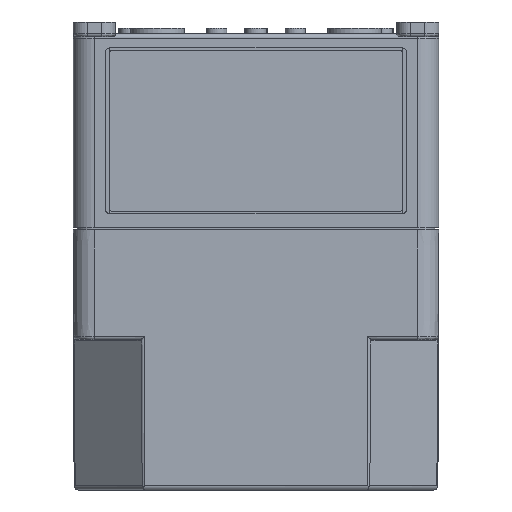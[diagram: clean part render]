
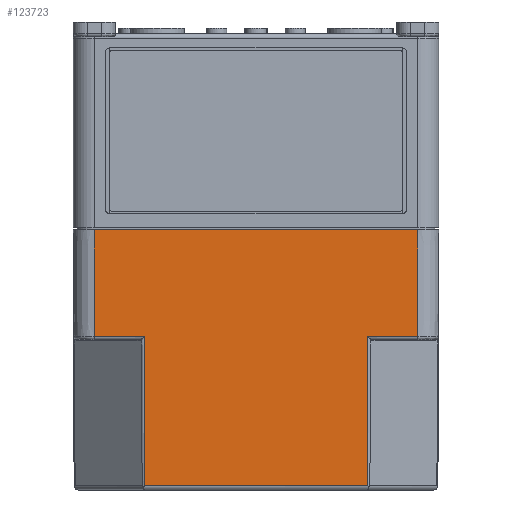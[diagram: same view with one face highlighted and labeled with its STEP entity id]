
A CAD part, front view. The second image highlights one B-rep face of the part: STEP entity #123723.
In plain terms, the highlighted planar face has unit normal (0, -1, -0.004).
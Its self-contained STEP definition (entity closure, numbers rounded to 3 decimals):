
#214 = EDGE_CURVE ( 'NONE', #134812, #115852, #35883, .T. ) ;
#1558 = VECTOR ( 'NONE', #43637, 1000. ) ;
#6525 = EDGE_LOOP ( 'NONE', ( #106716, #36569, #9038, #45359, #113053, #16977, #89786, #100131 ) ) ;
#7467 = DIRECTION ( 'NONE',  ( 0., -0.003, 1. ) ) ;
#8660 = CARTESIAN_POINT ( 'NONE',  ( 57.5, -90., 0. ) ) ;
#9038 = ORIENTED_EDGE ( 'NONE', *, *, #214, .F. ) ;
#10070 = CARTESIAN_POINT ( 'NONE',  ( 30., -89.867, -38.003 ) ) ;
#10581 = PLANE ( 'NONE',  #68981 ) ;
#12914 = EDGE_CURVE ( 'NONE', #101458, #72543, #26311, .T. ) ;
#15495 = LINE ( 'NONE', #69424, #69698 ) ;
#16465 = LINE ( 'NONE', #57149, #91505 ) ;
#16977 = ORIENTED_EDGE ( 'NONE', *, *, #107536, .T. ) ;
#19551 = EDGE_CURVE ( 'NONE', #81115, #106004, #16465, .T. ) ;
#20744 = CARTESIAN_POINT ( 'NONE',  ( 39.677, -90., 0. ) ) ;
#20867 = VECTOR ( 'NONE', #22068, 1000. ) ;
#21081 = FACE_OUTER_BOUND ( 'NONE', #6525, .T. ) ;
#21946 = DIRECTION ( 'NONE',  ( 1., 0., 0. ) ) ;
#21975 = CARTESIAN_POINT ( 'NONE',  ( 100., -89.682, -91.005 ) ) ;
#22068 = DIRECTION ( 'NONE',  ( -1., 0., 0. ) ) ;
#26311 = LINE ( 'NONE', #78149, #56805 ) ;
#27075 = CARTESIAN_POINT ( 'NONE',  ( 39.677, -89.682, -91.005 ) ) ;
#35883 = LINE ( 'NONE', #21975, #1558 ) ;
#36569 = ORIENTED_EDGE ( 'NONE', *, *, #60105, .T. ) ;
#36721 = CARTESIAN_POINT ( 'NONE',  ( 39.677, -89.867, -38.003 ) ) ;
#37170 = DIRECTION ( 'NONE',  ( 0., -0.003, 1. ) ) ;
#43637 = DIRECTION ( 'NONE',  ( -1., 0., 0. ) ) ;
#45359 = ORIENTED_EDGE ( 'NONE', *, *, #111520, .T. ) ;
#53082 = CARTESIAN_POINT ( 'NONE',  ( -39.677, -89.682, -91.005 ) ) ;
#53251 = CARTESIAN_POINT ( 'NONE',  ( 57.5, -89.867, -38.003 ) ) ;
#56805 = VECTOR ( 'NONE', #120727, 1000. ) ;
#57149 = CARTESIAN_POINT ( 'NONE',  ( -57.5, -90., 0. ) ) ;
#60105 = EDGE_CURVE ( 'NONE', #61565, #115852, #15495, .T. ) ;
#61565 = VERTEX_POINT ( 'NONE', #67738 ) ;
#67738 = CARTESIAN_POINT ( 'NONE',  ( -39.677, -89.867, -38.003 ) ) ;
#68653 = CARTESIAN_POINT ( 'NONE',  ( 57.5, -90., 0. ) ) ;
#68981 = AXIS2_PLACEMENT_3D ( 'NONE', #99314, #107739, #120240 ) ;
#69424 = CARTESIAN_POINT ( 'NONE',  ( -39.677, -90., 0. ) ) ;
#69698 = VECTOR ( 'NONE', #70123, 1000. ) ;
#70123 = DIRECTION ( 'NONE',  ( 0., 0.003, -1. ) ) ;
#72543 = VERTEX_POINT ( 'NONE', #53251 ) ;
#77136 = VECTOR ( 'NONE', #7467, 1000. ) ;
#78149 = CARTESIAN_POINT ( 'NONE',  ( 30., -89.867, -38.003 ) ) ;
#81115 = VERTEX_POINT ( 'NONE', #135576 ) ;
#85075 = LINE ( 'NONE', #127572, #20867 ) ;
#89786 = ORIENTED_EDGE ( 'NONE', *, *, #119849, .T. ) ;
#91505 = VECTOR ( 'NONE', #134566, 1000. ) ;
#99314 = CARTESIAN_POINT ( 'NONE',  ( 30., -90., 0. ) ) ;
#100131 = ORIENTED_EDGE ( 'NONE', *, *, #19551, .T. ) ;
#101458 = VERTEX_POINT ( 'NONE', #36721 ) ;
#101641 = VECTOR ( 'NONE', #37170, 1000. ) ;
#106004 = VERTEX_POINT ( 'NONE', #119695 ) ;
#106716 = ORIENTED_EDGE ( 'NONE', *, *, #112998, .T. ) ;
#107536 = EDGE_CURVE ( 'NONE', #72543, #127297, #133523, .T. ) ;
#107739 = DIRECTION ( 'NONE',  ( 0., -1., -0.003 ) ) ;
#111520 = EDGE_CURVE ( 'NONE', #134812, #101458, #124866, .T. ) ;
#112998 = EDGE_CURVE ( 'NONE', #106004, #61565, #125373, .T. ) ;
#113053 = ORIENTED_EDGE ( 'NONE', *, *, #12914, .T. ) ;
#115363 = VECTOR ( 'NONE', #21946, 1000. ) ;
#115852 = VERTEX_POINT ( 'NONE', #53082 ) ;
#119695 = CARTESIAN_POINT ( 'NONE',  ( -57.5, -89.867, -38.003 ) ) ;
#119849 = EDGE_CURVE ( 'NONE', #127297, #81115, #85075, .T. ) ;
#120240 = DIRECTION ( 'NONE',  ( 0., 0.003, -1. ) ) ;
#120727 = DIRECTION ( 'NONE',  ( 1., 0., 0. ) ) ;
#123723 = ADVANCED_FACE ( 'NONE', ( #21081 ), #10581, .T. ) ;
#124866 = LINE ( 'NONE', #20744, #77136 ) ;
#125373 = LINE ( 'NONE', #10070, #115363 ) ;
#127297 = VERTEX_POINT ( 'NONE', #8660 ) ;
#127572 = CARTESIAN_POINT ( 'NONE',  ( 30., -90., 0. ) ) ;
#133523 = LINE ( 'NONE', #68653, #101641 ) ;
#134566 = DIRECTION ( 'NONE',  ( 0., 0.003, -1. ) ) ;
#134812 = VERTEX_POINT ( 'NONE', #27075 ) ;
#135576 = CARTESIAN_POINT ( 'NONE',  ( -57.5, -90., 0. ) ) ;
